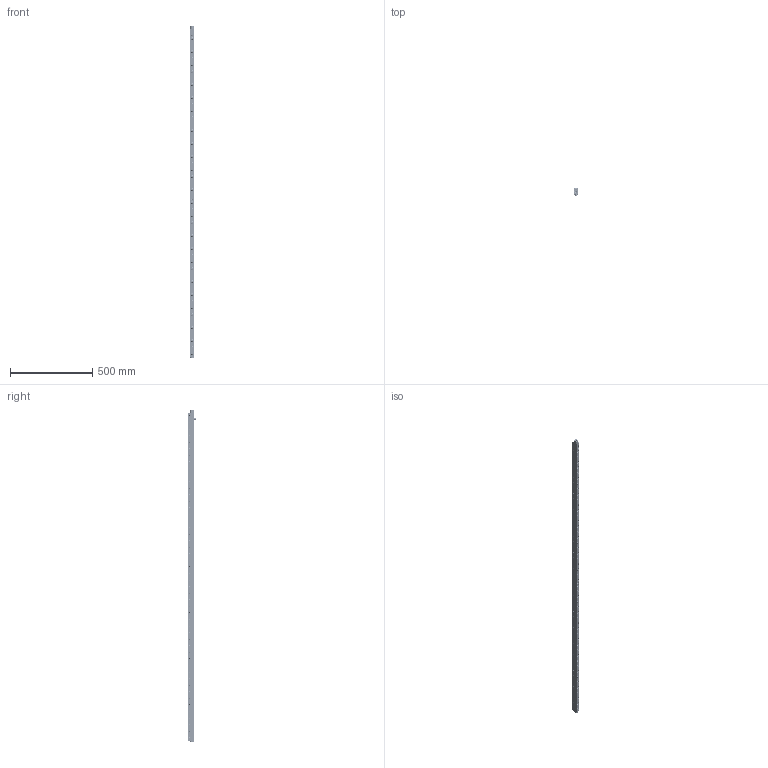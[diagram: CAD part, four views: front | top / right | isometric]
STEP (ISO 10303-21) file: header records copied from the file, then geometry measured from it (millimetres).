
FILE_DESCRIPTION(/* description */ ('EHR22-50'),/* implementation_level */ '2;1');
FILE_NAME(/* name */ 'S:\EASCN Vault\Designs\Standard Part\DIE LIFTERS\EHR\EHR- 3D step\EHR22 - 3D step complete serie\EHR22-50.stp',/* time_stamp */ '2019-10-29T14:06:14+08:00',/* author */ ('yue.yang'),/* organization */ (''),/* preprocessor_version */ 'ST-DEVELOPER v17',/* originating_system */ 'Autodesk Inventor 2019',/* authorisation */ '');
FILE_SCHEMA (('AUTOMOTIVE_DESIGN { 1 0 10303 214 3 1 1 }'));
Products named in the file (2): EHR22-50; EHR22-50_Substitute_1
Assembly tree (1 placements, depth 2):
  EHR22-50
    EHR22-50_Substitute_1
Bounding box: 21.8 x 48.05 x 2022 mm (x, y, z)
Volume: 1243128.2 mm3; surface area: 505672.5 mm2
Topology: 168 solids, 168 shells, 2693 faces, 7586 edges, 5273 vertices
Faces by surface type: cylinder 939, plane 624, cone 570, torus 458, sphere 102
Full cylindrical faces by diameter (mm): 2.459 x16, 3 x9, 3.2 x8, 4 x20, 5 x150, 6 x60, 7.5 x2, 8.566 x1, 10 x11, 11 x50, 12.5 x100, 13.4 x50, 13.8 x50, 15.95 x100, 16 x100
Entity records: 98613 total; most frequent: CARTESIAN_POINT 22081, DIRECTION 17139, ORIENTED_EDGE 15020, AXIS2_PLACEMENT_3D 7659, EDGE_CURVE 7510, VERTEX_POINT 5273, CIRCLE 4963, EDGE_LOOP 3175
